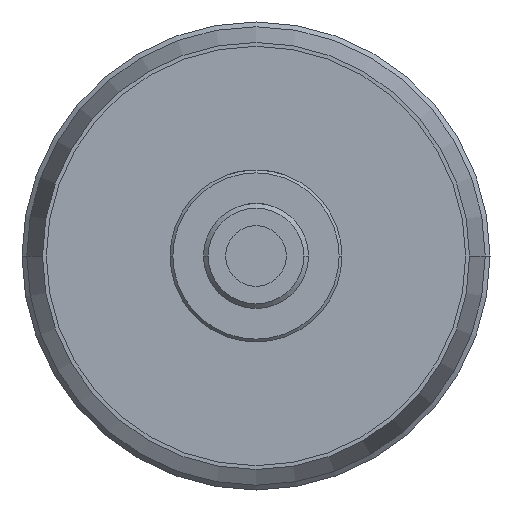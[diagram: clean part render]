
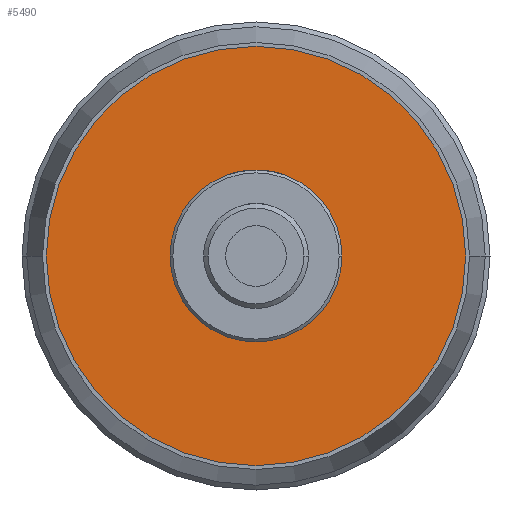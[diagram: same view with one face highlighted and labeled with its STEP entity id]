
A CAD part, left-side view. The second image highlights one B-rep face of the part: STEP entity #5490.
In plain terms, the highlighted planar face has unit normal (-1, 0, 0).
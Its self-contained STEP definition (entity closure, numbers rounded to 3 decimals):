
#5010=CARTESIAN_POINT('',(52.437,-82.217,0.));
#5020=VERTEX_POINT('',#5010);
#5100=CARTESIAN_POINT('',(52.437,-38.317,
0.));
#5110=VERTEX_POINT('',#5100);
#5140=CARTESIAN_POINT('',(52.437,-60.267,0.));
#5150=DIRECTION('',(1.,0.,0.));
#5160=DIRECTION('',(0.,1.,0.));
#5170=AXIS2_PLACEMENT_3D('',#5140,#5150,#5160);
#5180=CIRCLE('',#5170,21.95);
#5190=EDGE_CURVE('',#5020,#5110,#5180,.T.);
#5240=CARTESIAN_POINT('',(52.437,-44.792,0.));
#5250=DIRECTION('',(1.,0.,0.));
#5260=DIRECTION('',(0.,-1.,0.));
#5270=AXIS2_PLACEMENT_3D('',#5240,#5250,#5260);
#5280=PLANE('',#5270);
#5290=CARTESIAN_POINT('',(52.437,-60.267,0.));
#5300=DIRECTION('',(1.,0.,0.));
#5310=DIRECTION('',(0.,1.,0.));
#5320=AXIS2_PLACEMENT_3D('',#5290,#5300,#5310);
#5330=CIRCLE('',#5320,9.);
#5340=CARTESIAN_POINT('',(52.437,-51.267,0.));
#5350=VERTEX_POINT('',#5340);
#5360=CARTESIAN_POINT('',(52.437,-69.267,
0.));
#5370=VERTEX_POINT('',#5360);
#5380=EDGE_CURVE('',#5350,#5370,#5330,.T.);
#5390=ORIENTED_EDGE('',*,*,#5380,.T.);
#5400=EDGE_CURVE('',#5370,#5350,#5330,.T.);
#5410=ORIENTED_EDGE('',*,*,#5400,.T.);
#5420=EDGE_LOOP('',(#5410,#5390));
#5430=FACE_BOUND('',#5420,.T.);
#5440=EDGE_CURVE('',#5110,#5020,#5180,.T.);
#5450=ORIENTED_EDGE('',*,*,#5440,.F.);
#5460=ORIENTED_EDGE('',*,*,#5190,.F.);
#5470=EDGE_LOOP('',(#5460,#5450));
#5480=FACE_OUTER_BOUND('',#5470,.T.);
#5490=ADVANCED_FACE('',(#5430,#5480),#5280,.F.);
